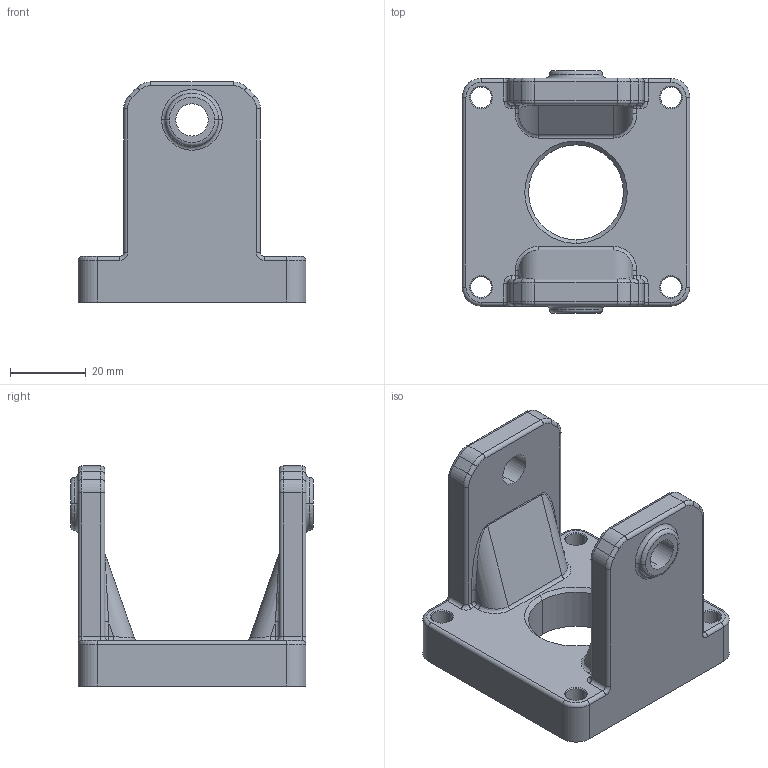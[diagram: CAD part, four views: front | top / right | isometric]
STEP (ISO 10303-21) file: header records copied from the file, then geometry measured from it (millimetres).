
FILE_DESCRIPTION((''),'2;1');
FILE_NAME('MOTORPLATTA','2025-06-09T00:04:31',('Richard'),(''),'CREO PARAMETRIC BY PTC INC, 2023072','CREO PARAMETRIC BY PTC INC, 2023072','');
FILE_SCHEMA(('CONFIG_CONTROL_DESIGN'));
Length unit declared in the file: millimetre
Products named in the file (1): MOTORPLATTA
Bounding box: 60 x 64 x 58 mm (x, y, z)
Volume: 63234.3 mm3; surface area: 18035.4 mm2
Topology: 1 solids, 1 shells, 160 faces, 386 edges, 230 vertices
Faces by surface type: cylinder 76, torus 36, plane 26, cone 10, bspline 8, sphere 4
Entity records: 6322 total; most frequent: CARTESIAN_POINT 2428, DIRECTION 888, ORIENTED_EDGE 772, EDGE_CURVE 386, AXIS2_PLACEMENT_3D 366, VERTEX_POINT 230, CIRCLE 214, EDGE_LOOP 176
